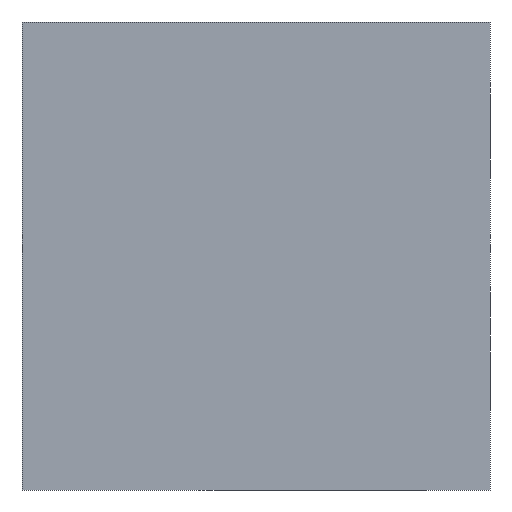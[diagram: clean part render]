
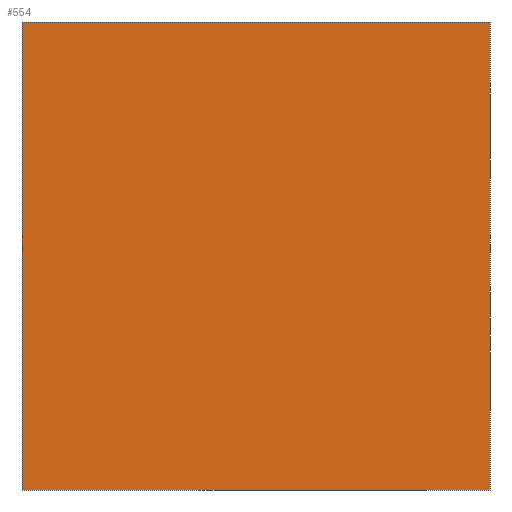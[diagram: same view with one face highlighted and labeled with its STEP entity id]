
A CAD part, front view. The second image highlights one B-rep face of the part: STEP entity #554.
In plain terms, the highlighted planar face has unit normal (0, -1, 0).
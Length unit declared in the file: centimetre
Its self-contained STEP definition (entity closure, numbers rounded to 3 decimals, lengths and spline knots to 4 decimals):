
#35 = DIRECTION ( 'NONE',  ( 0., 0., -1. ) ) ;
#93 = VECTOR ( 'NONE', #1278, 100. ) ;
#113 = VERTEX_POINT ( 'NONE', #1318 ) ;
#198 = VERTEX_POINT ( 'NONE', #1410 ) ;
#271 = LINE ( 'NONE', #1254, #93 ) ;
#365 = FACE_OUTER_BOUND ( 'NONE', #1069, .T. ) ;
#498 = CARTESIAN_POINT ( 'NONE',  ( 0., 0., 0. ) ) ;
#554 = ADVANCED_FACE ( 'NONE', ( #365 ), #608, .F. ) ;
#568 = ORIENTED_EDGE ( 'NONE', *, *, #1605, .F. ) ;
#608 = PLANE ( 'NONE',  #1510 ) ;
#639 = CARTESIAN_POINT ( 'NONE',  ( 0., 0., 1000. ) ) ;
#685 = ORIENTED_EDGE ( 'NONE', *, *, #1281, .F. ) ;
#720 = VECTOR ( 'NONE', #35, 100. ) ;
#773 = LINE ( 'NONE', #1391, #720 ) ;
#882 = EDGE_CURVE ( 'NONE', #113, #1038, #1271, .T. ) ;
#942 = ORIENTED_EDGE ( 'NONE', *, *, #882, .T. ) ;
#961 = DIRECTION ( 'NONE',  ( 0., 0., -1. ) ) ;
#984 = CARTESIAN_POINT ( 'NONE',  ( 1000., 0., 1000. ) ) ;
#1038 = VERTEX_POINT ( 'NONE', #1593 ) ;
#1069 = EDGE_LOOP ( 'NONE', ( #942, #568, #685, #1485 ) ) ;
#1076 = LINE ( 'NONE', #1589, #1535 ) ;
#1115 = DIRECTION ( 'NONE',  ( 0., 1., 0. ) ) ;
#1208 = EDGE_CURVE ( 'NONE', #198, #113, #773, .T. ) ;
#1254 = CARTESIAN_POINT ( 'NONE',  ( 0., 0., 1000. ) ) ;
#1271 = LINE ( 'NONE', #498, #1286 ) ;
#1278 = DIRECTION ( 'NONE',  ( 1., 0., 0. ) ) ;
#1281 = EDGE_CURVE ( 'NONE', #198, #1514, #271, .T. ) ;
#1286 = VECTOR ( 'NONE', #1517, 100. ) ;
#1318 = CARTESIAN_POINT ( 'NONE',  ( 0., 0., 0. ) ) ;
#1391 = CARTESIAN_POINT ( 'NONE',  ( 0., 0., 1000. ) ) ;
#1410 = CARTESIAN_POINT ( 'NONE',  ( 0., 0., 1000. ) ) ;
#1485 = ORIENTED_EDGE ( 'NONE', *, *, #1208, .T. ) ;
#1491 = DIRECTION ( 'NONE',  ( 0., 0., 1. ) ) ;
#1510 = AXIS2_PLACEMENT_3D ( 'NONE', #639, #1115, #1491 ) ;
#1514 = VERTEX_POINT ( 'NONE', #984 ) ;
#1517 = DIRECTION ( 'NONE',  ( 1., 0., 0. ) ) ;
#1535 = VECTOR ( 'NONE', #961, 100. ) ;
#1589 = CARTESIAN_POINT ( 'NONE',  ( 1000., 0., 1000. ) ) ;
#1593 = CARTESIAN_POINT ( 'NONE',  ( 1000., 0., 0. ) ) ;
#1605 = EDGE_CURVE ( 'NONE', #1514, #1038, #1076, .T. ) ;
